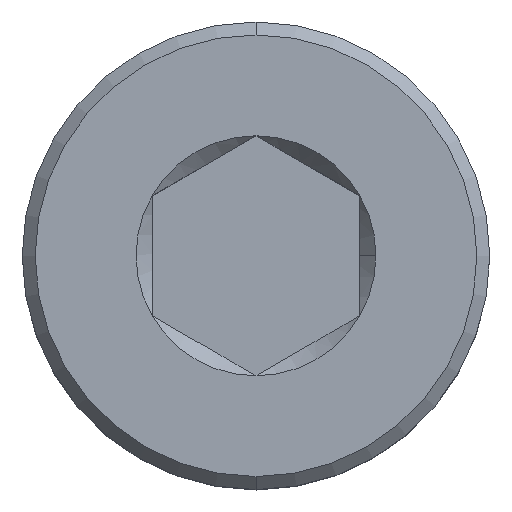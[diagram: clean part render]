
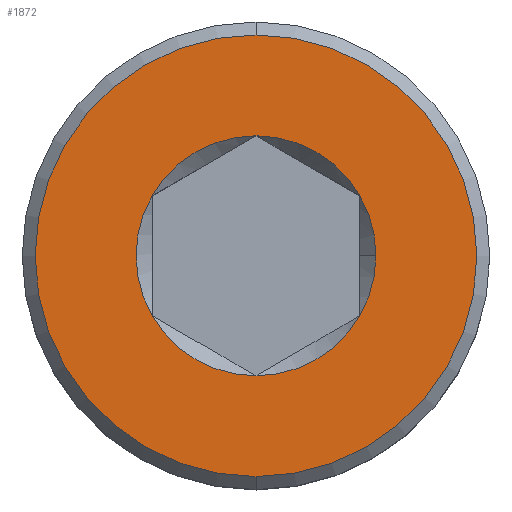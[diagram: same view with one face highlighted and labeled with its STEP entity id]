
A CAD part, top view. The second image highlights one B-rep face of the part: STEP entity #1872.
In plain terms, the highlighted planar face has unit normal (0, 0, 1).
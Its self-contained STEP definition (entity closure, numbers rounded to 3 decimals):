
#12 = DIRECTION ( 'NONE',  ( 0., 1., 0. ) ) ;
#18 = PLANE ( 'NONE',  #1699 ) ;
#20 = DIRECTION ( 'NONE',  ( 0., 0., 1. ) ) ;
#36 = CIRCLE ( 'NONE', #755, 1.155 ) ;
#67 = CIRCLE ( 'NONE', #1381, 1.155 ) ;
#68 = CARTESIAN_POINT ( 'NONE',  ( 0., 0., 3.25 ) ) ;
#98 = CARTESIAN_POINT ( 'NONE',  ( 0., 0., 3.25 ) ) ;
#99 = DIRECTION ( 'NONE',  ( 0., 0., 1. ) ) ;
#318 = DIRECTION ( 'NONE',  ( 0., 0., 1. ) ) ;
#368 = CIRCLE ( 'NONE', #1568, 1.155 ) ;
#384 = CARTESIAN_POINT ( 'NONE',  ( 1., -0.577, 3.25 ) ) ;
#391 = DIRECTION ( 'NONE',  ( 0., -1., 0. ) ) ;
#445 = AXIS2_PLACEMENT_3D ( 'NONE', #919, #2309, #12 ) ;
#450 = DIRECTION ( 'NONE',  ( 1., 0., 0. ) ) ;
#474 = CARTESIAN_POINT ( 'NONE',  ( 0., 0., 3.25 ) ) ;
#483 = DIRECTION ( 'NONE',  ( 1., 0., 0. ) ) ;
#518 = EDGE_CURVE ( 'NONE', #1407, #1851, #2424, .T. ) ;
#543 = EDGE_CURVE ( 'NONE', #1439, #1899, #2242, .T. ) ;
#612 = CARTESIAN_POINT ( 'NONE',  ( 0., 0., 3.25 ) ) ;
#670 = AXIS2_PLACEMENT_3D ( 'NONE', #1516, #318, #1712 ) ;
#672 = VERTEX_POINT ( 'NONE', #677 ) ;
#677 = CARTESIAN_POINT ( 'NONE',  ( 0., -1.155, 3.25 ) ) ;
#734 = CARTESIAN_POINT ( 'NONE',  ( 0., 0., 3.25 ) ) ;
#738 = CARTESIAN_POINT ( 'NONE',  ( 1.155, 0., 3.25 ) ) ;
#755 = AXIS2_PLACEMENT_3D ( 'NONE', #734, #1352, #1542 ) ;
#762 = AXIS2_PLACEMENT_3D ( 'NONE', #2419, #20, #450 ) ;
#772 = AXIS2_PLACEMENT_3D ( 'NONE', #612, #810, #1965 ) ;
#779 = DIRECTION ( 'NONE',  ( 0., 1., 0. ) ) ;
#789 = CARTESIAN_POINT ( 'NONE',  ( 0., 1.155, 3.25 ) ) ;
#810 = DIRECTION ( 'NONE',  ( 0., 0., 1. ) ) ;
#887 = VERTEX_POINT ( 'NONE', #1356 ) ;
#919 = CARTESIAN_POINT ( 'NONE',  ( 0., 0., 3.25 ) ) ;
#937 = EDGE_LOOP ( 'NONE', ( #2096, #1665 ) ) ;
#1007 = ORIENTED_EDGE ( 'NONE', *, *, #1591, .F. ) ;
#1013 = DIRECTION ( 'NONE',  ( 0., 0., -1. ) ) ;
#1128 = ORIENTED_EDGE ( 'NONE', *, *, #1452, .F. ) ;
#1144 = CIRCLE ( 'NONE', #1253, 1.155 ) ;
#1179 = EDGE_LOOP ( 'NONE', ( #1219, #1535, #1816, #2559, #1007, #1128, #1670 ) ) ;
#1187 = CARTESIAN_POINT ( 'NONE',  ( 0., -2.125, 3.25 ) ) ;
#1219 = ORIENTED_EDGE ( 'NONE', *, *, #1413, .F. ) ;
#1233 = EDGE_CURVE ( 'NONE', #2120, #1768, #1393, .T. ) ;
#1253 = AXIS2_PLACEMENT_3D ( 'NONE', #98, #1486, #483 ) ;
#1267 = DIRECTION ( 'NONE',  ( 0., 0., 1. ) ) ;
#1279 = CARTESIAN_POINT ( 'NONE',  ( -1., 0.577, 3.25 ) ) ;
#1332 = FACE_BOUND ( 'NONE', #1179, .T. ) ;
#1352 = DIRECTION ( 'NONE',  ( 0., 0., 1. ) ) ;
#1356 = CARTESIAN_POINT ( 'NONE',  ( 1., 0.577, 3.25 ) ) ;
#1361 = CIRCLE ( 'NONE', #2412, 2.125 ) ;
#1381 = AXIS2_PLACEMENT_3D ( 'NONE', #474, #99, #1446 ) ;
#1393 = CIRCLE ( 'NONE', #772, 1.155 ) ;
#1407 = VERTEX_POINT ( 'NONE', #1279 ) ;
#1413 = EDGE_CURVE ( 'NONE', #672, #2120, #368, .T. ) ;
#1439 = VERTEX_POINT ( 'NONE', #2272 ) ;
#1446 = DIRECTION ( 'NONE',  ( 1., 0., 0. ) ) ;
#1452 = EDGE_CURVE ( 'NONE', #1768, #887, #67, .T. ) ;
#1464 = EDGE_CURVE ( 'NONE', #1851, #672, #1891, .T. ) ;
#1486 = DIRECTION ( 'NONE',  ( 0., 0., 1. ) ) ;
#1516 = CARTESIAN_POINT ( 'NONE',  ( 0., 0., 3.25 ) ) ;
#1535 = ORIENTED_EDGE ( 'NONE', *, *, #1464, .F. ) ;
#1542 = DIRECTION ( 'NONE',  ( 1., 0., 0. ) ) ;
#1568 = AXIS2_PLACEMENT_3D ( 'NONE', #68, #1267, #1659 ) ;
#1576 = CARTESIAN_POINT ( 'NONE',  ( -1., -0.577, 3.25 ) ) ;
#1591 = EDGE_CURVE ( 'NONE', #887, #1845, #1144, .T. ) ;
#1612 = DIRECTION ( 'NONE',  ( 0., 0., 1. ) ) ;
#1659 = DIRECTION ( 'NONE',  ( 1., 0., 0. ) ) ;
#1665 = ORIENTED_EDGE ( 'NONE', *, *, #1783, .F. ) ;
#1670 = ORIENTED_EDGE ( 'NONE', *, *, #1233, .F. ) ;
#1689 = FACE_OUTER_BOUND ( 'NONE', #937, .T. ) ;
#1699 = AXIS2_PLACEMENT_3D ( 'NONE', #2209, #1612, #391 ) ;
#1712 = DIRECTION ( 'NONE',  ( 1., 0., 0. ) ) ;
#1768 = VERTEX_POINT ( 'NONE', #738 ) ;
#1772 = CARTESIAN_POINT ( 'NONE',  ( 0., 0., 3.25 ) ) ;
#1783 = EDGE_CURVE ( 'NONE', #1899, #1439, #1361, .T. ) ;
#1816 = ORIENTED_EDGE ( 'NONE', *, *, #518, .F. ) ;
#1845 = VERTEX_POINT ( 'NONE', #789 ) ;
#1851 = VERTEX_POINT ( 'NONE', #1576 ) ;
#1872 = ADVANCED_FACE ( 'NONE', ( #1332, #1689 ), #18, .T. ) ;
#1891 = CIRCLE ( 'NONE', #762, 1.155 ) ;
#1899 = VERTEX_POINT ( 'NONE', #1187 ) ;
#1965 = DIRECTION ( 'NONE',  ( 1., 0., 0. ) ) ;
#2096 = ORIENTED_EDGE ( 'NONE', *, *, #543, .F. ) ;
#2120 = VERTEX_POINT ( 'NONE', #384 ) ;
#2209 = CARTESIAN_POINT ( 'NONE',  ( 0., 0., 3.25 ) ) ;
#2242 = CIRCLE ( 'NONE', #445, 2.125 ) ;
#2272 = CARTESIAN_POINT ( 'NONE',  ( 0., 2.125, 3.25 ) ) ;
#2309 = DIRECTION ( 'NONE',  ( 0., 0., -1. ) ) ;
#2375 = EDGE_CURVE ( 'NONE', #1845, #1407, #36, .T. ) ;
#2412 = AXIS2_PLACEMENT_3D ( 'NONE', #1772, #1013, #779 ) ;
#2419 = CARTESIAN_POINT ( 'NONE',  ( 0., 0., 3.25 ) ) ;
#2424 = CIRCLE ( 'NONE', #670, 1.155 ) ;
#2559 = ORIENTED_EDGE ( 'NONE', *, *, #2375, .F. ) ;
